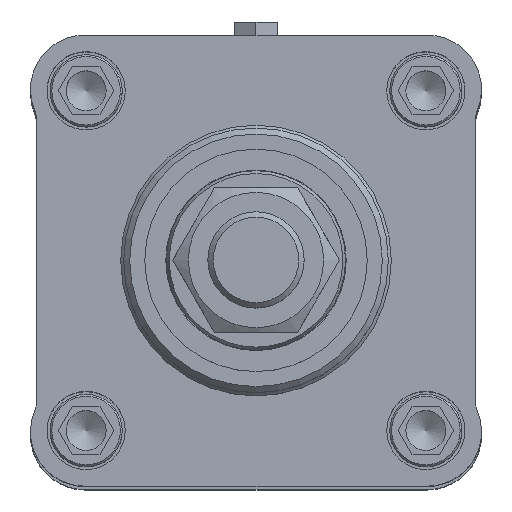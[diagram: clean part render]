
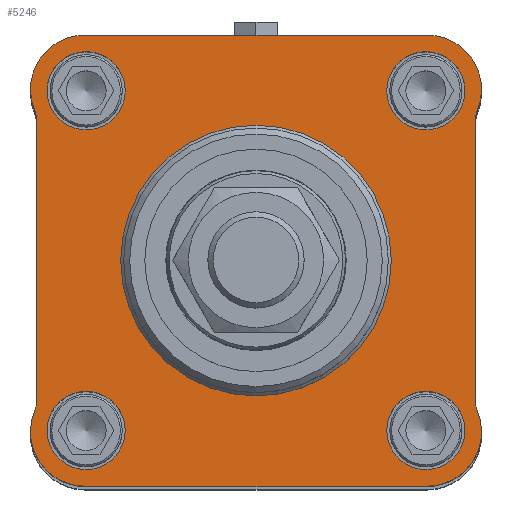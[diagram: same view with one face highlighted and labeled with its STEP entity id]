
A CAD part, top view. The second image highlights one B-rep face of the part: STEP entity #5246.
In plain terms, the highlighted planar face has unit normal (0, 0, 1) as drawn and (-1, 0, 0) by its records, which use the part's own axes.
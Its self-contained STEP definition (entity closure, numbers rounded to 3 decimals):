
#208=CIRCLE('',#5616,22.5);
#215=CIRCLE('',#5629,9.);
#217=CIRCLE('',#5632,4.5);
#219=CIRCLE('',#5636,4.5);
#221=CIRCLE('',#5639,9.);
#223=CIRCLE('',#5643,9.);
#225=CIRCLE('',#5646,4.5);
#227=CIRCLE('',#5650,4.5);
#229=CIRCLE('',#5653,9.);
#230=CIRCLE('',#5655,6.5);
#231=CIRCLE('',#5656,6.5);
#232=CIRCLE('',#5657,6.5);
#233=CIRCLE('',#5658,6.5);
#933=ORIENTED_EDGE('',*,*,#1614,.T.);
#934=ORIENTED_EDGE('',*,*,#1615,.T.);
#935=ORIENTED_EDGE('',*,*,#1616,.T.);
#936=ORIENTED_EDGE('',*,*,#1617,.T.);
#937=ORIENTED_EDGE('',*,*,#1572,.F.);
#938=ORIENTED_EDGE('',*,*,#1580,.F.);
#939=ORIENTED_EDGE('',*,*,#1613,.F.);
#940=ORIENTED_EDGE('',*,*,#1610,.T.);
#941=ORIENTED_EDGE('',*,*,#1607,.F.);
#942=ORIENTED_EDGE('',*,*,#1604,.T.);
#943=ORIENTED_EDGE('',*,*,#1601,.F.);
#944=ORIENTED_EDGE('',*,*,#1598,.F.);
#945=ORIENTED_EDGE('',*,*,#1595,.F.);
#946=ORIENTED_EDGE('',*,*,#1592,.T.);
#947=ORIENTED_EDGE('',*,*,#1589,.F.);
#948=ORIENTED_EDGE('',*,*,#1586,.T.);
#949=ORIENTED_EDGE('',*,*,#1583,.F.);
#1572=EDGE_CURVE('',#1983,#1983,#208,.F.);
#1580=EDGE_CURVE('',#1991,#1992,#2288,.T.);
#1583=EDGE_CURVE('',#1992,#1994,#215,.T.);
#1586=EDGE_CURVE('',#1996,#1994,#217,.T.);
#1589=EDGE_CURVE('',#1996,#1998,#2293,.T.);
#1592=EDGE_CURVE('',#2000,#1998,#219,.T.);
#1595=EDGE_CURVE('',#2000,#2002,#221,.T.);
#1598=EDGE_CURVE('',#2002,#2004,#2298,.T.);
#1601=EDGE_CURVE('',#2004,#2006,#223,.T.);
#1604=EDGE_CURVE('',#2008,#2006,#225,.T.);
#1607=EDGE_CURVE('',#2008,#2010,#2303,.T.);
#1610=EDGE_CURVE('',#2012,#2010,#227,.T.);
#1613=EDGE_CURVE('',#2012,#1991,#229,.T.);
#1614=EDGE_CURVE('',#2013,#2013,#230,.T.);
#1615=EDGE_CURVE('',#2014,#2014,#231,.T.);
#1616=EDGE_CURVE('',#2015,#2015,#232,.T.);
#1617=EDGE_CURVE('',#2016,#2016,#233,.T.);
#1983=VERTEX_POINT('',#7611);
#1991=VERTEX_POINT('',#7631);
#1992=VERTEX_POINT('',#7633);
#1994=VERTEX_POINT('',#7639);
#1996=VERTEX_POINT('',#7645);
#1998=VERTEX_POINT('',#7651);
#2000=VERTEX_POINT('',#7657);
#2002=VERTEX_POINT('',#7663);
#2004=VERTEX_POINT('',#7669);
#2006=VERTEX_POINT('',#7675);
#2008=VERTEX_POINT('',#7681);
#2010=VERTEX_POINT('',#7687);
#2012=VERTEX_POINT('',#7693);
#2013=VERTEX_POINT('',#7700);
#2014=VERTEX_POINT('',#7702);
#2015=VERTEX_POINT('',#7704);
#2016=VERTEX_POINT('',#7706);
#2288=LINE('',#7632,#2532);
#2293=LINE('',#7650,#2537);
#2298=LINE('',#7668,#2542);
#2303=LINE('',#7686,#2547);
#2532=VECTOR('',#6492,1000.);
#2537=VECTOR('',#6511,1000.);
#2542=VECTOR('',#6530,1000.);
#2547=VECTOR('',#6549,1000.);
#2848=EDGE_LOOP('',(#933));
#2849=EDGE_LOOP('',(#934));
#2850=EDGE_LOOP('',(#935));
#2851=EDGE_LOOP('',(#936));
#2852=EDGE_LOOP('',(#937));
#2853=EDGE_LOOP('',(#938,#939,#940,#941,#942,#943,#944,#945,#946,#947,#948,
#949));
#3259=FACE_BOUND('',#2848,.T.);
#3260=FACE_BOUND('',#2849,.T.);
#3261=FACE_BOUND('',#2850,.T.);
#3262=FACE_BOUND('',#2851,.T.);
#3263=FACE_BOUND('',#2852,.T.);
#3264=FACE_BOUND('',#2853,.T.);
#3515=PLANE('',#5654);
#5246=ADVANCED_FACE('',(#3259,#3260,#3261,#3262,#3263,#3264),#3515,.F.);
#5616=AXIS2_PLACEMENT_3D('',#7610,#6468,#6469);
#5629=AXIS2_PLACEMENT_3D('',#7638,#6498,#6499);
#5632=AXIS2_PLACEMENT_3D('',#7644,#6505,#6506);
#5636=AXIS2_PLACEMENT_3D('',#7656,#6517,#6518);
#5639=AXIS2_PLACEMENT_3D('',#7662,#6524,#6525);
#5643=AXIS2_PLACEMENT_3D('',#7674,#6536,#6537);
#5646=AXIS2_PLACEMENT_3D('',#7680,#6543,#6544);
#5650=AXIS2_PLACEMENT_3D('',#7692,#6555,#6556);
#5653=AXIS2_PLACEMENT_3D('',#7697,#6562,#6563);
#5654=AXIS2_PLACEMENT_3D('',#7698,#6564,#6565);
#5655=AXIS2_PLACEMENT_3D('',#7699,#6566,#6567);
#5656=AXIS2_PLACEMENT_3D('',#7701,#6568,#6569);
#5657=AXIS2_PLACEMENT_3D('',#7703,#6570,#6571);
#5658=AXIS2_PLACEMENT_3D('',#7705,#6572,#6573);
#6468=DIRECTION('',(1.,0.,0.));
#6469=DIRECTION('',(0.,0.,-1.));
#6492=DIRECTION('',(0.,-1.,0.));
#6498=DIRECTION('',(1.,0.,0.));
#6499=DIRECTION('',(0.,0.,-1.));
#6505=DIRECTION('',(1.,0.,0.));
#6506=DIRECTION('',(0.,0.,-1.));
#6511=DIRECTION('',(0.,0.,-1.));
#6517=DIRECTION('',(1.,0.,0.));
#6518=DIRECTION('',(0.,0.,-1.));
#6524=DIRECTION('',(1.,0.,0.));
#6525=DIRECTION('',(0.,0.,-1.));
#6530=DIRECTION('',(0.,1.,0.));
#6536=DIRECTION('',(1.,0.,0.));
#6537=DIRECTION('',(0.,0.,-1.));
#6543=DIRECTION('',(1.,0.,0.));
#6544=DIRECTION('',(0.,0.,-1.));
#6549=DIRECTION('',(0.,0.,1.));
#6555=DIRECTION('',(1.,0.,0.));
#6556=DIRECTION('',(0.,0.,-1.));
#6562=DIRECTION('',(1.,0.,0.));
#6563=DIRECTION('',(0.,0.,-1.));
#6564=DIRECTION('',(1.,0.,0.));
#6565=DIRECTION('',(0.,0.,-1.));
#6566=DIRECTION('',(1.,0.,0.));
#6567=DIRECTION('',(0.,0.,-1.));
#6568=DIRECTION('',(1.,0.,0.));
#6569=DIRECTION('',(0.,0.,-1.));
#6570=DIRECTION('',(1.,0.,0.));
#6571=DIRECTION('',(0.,0.,-1.));
#6572=DIRECTION('',(1.,0.,0.));
#6573=DIRECTION('',(0.,0.,-1.));
#7610=CARTESIAN_POINT('',(-38.,0.,0.));
#7611=CARTESIAN_POINT('',(-38.,0.,-22.5));
#7631=CARTESIAN_POINT('',(-38.,28.5,37.5));
#7632=CARTESIAN_POINT('',(-38.,28.5,37.5));
#7633=CARTESIAN_POINT('',(-38.,-28.5,37.5));
#7638=CARTESIAN_POINT('',(-38.,-28.5,28.5));
#7639=CARTESIAN_POINT('',(-38.,-36.833,25.101));
#7644=CARTESIAN_POINT('',(-38.,-41.,23.401));
#7645=CARTESIAN_POINT('',(-38.,-36.5,23.401));
#7650=CARTESIAN_POINT('',(-38.,-36.5,23.401));
#7651=CARTESIAN_POINT('',(-38.,-36.5,-23.401));
#7656=CARTESIAN_POINT('',(-38.,-41.,-23.401));
#7657=CARTESIAN_POINT('',(-38.,-36.833,-25.101));
#7662=CARTESIAN_POINT('',(-38.,-28.5,-28.5));
#7663=CARTESIAN_POINT('',(-38.,-28.5,-37.5));
#7668=CARTESIAN_POINT('',(-38.,-28.5,-37.5));
#7669=CARTESIAN_POINT('',(-38.,28.5,-37.5));
#7674=CARTESIAN_POINT('',(-38.,28.5,-28.5));
#7675=CARTESIAN_POINT('',(-38.,36.833,-25.101));
#7680=CARTESIAN_POINT('',(-38.,41.,-23.401));
#7681=CARTESIAN_POINT('',(-38.,36.5,-23.401));
#7686=CARTESIAN_POINT('',(-38.,36.5,-23.401));
#7687=CARTESIAN_POINT('',(-38.,36.5,23.401));
#7692=CARTESIAN_POINT('',(-38.,41.,23.401));
#7693=CARTESIAN_POINT('',(-38.,36.833,25.101));
#7697=CARTESIAN_POINT('',(-38.,28.5,28.5));
#7698=CARTESIAN_POINT('',(-38.,-28.5,28.5));
#7699=CARTESIAN_POINT('',(-38.,-28.25,28.25));
#7700=CARTESIAN_POINT('',(-38.,-28.25,21.75));
#7701=CARTESIAN_POINT('',(-38.,-28.25,-28.25));
#7702=CARTESIAN_POINT('',(-38.,-28.25,-34.75));
#7703=CARTESIAN_POINT('',(-38.,28.25,-28.25));
#7704=CARTESIAN_POINT('',(-38.,28.25,-34.75));
#7705=CARTESIAN_POINT('',(-38.,28.25,28.25));
#7706=CARTESIAN_POINT('',(-38.,28.25,21.75));
